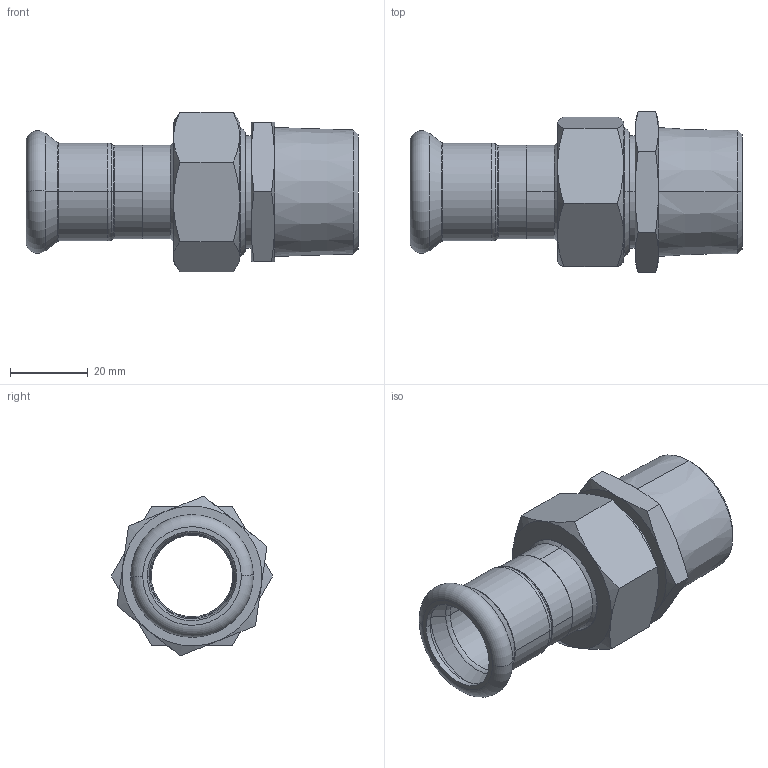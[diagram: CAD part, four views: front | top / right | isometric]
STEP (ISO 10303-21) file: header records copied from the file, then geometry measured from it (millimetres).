
FILE_DESCRIPTION (( 'STEP AP203' ), '1' );
FILE_NAME ('GDA5437.STEP', '2019-01-21T05:22:09', ( '' ), ( '' ), 'SwSTEP 2.0', 'SolidWorks 2015', '' );
FILE_SCHEMA (( 'CONFIG_CONTROL_DESIGN' ));
Length unit declared in the file: millimetre
Products named in the file (6): ZL-¢ñ-01¡Á1; 蛌遙諉芛1-1; GDA5437; 22｡ﾁ1; 1; T-ｉ-01-22
Assembly tree (5 placements, depth 2):
  GDA5437
    22｡ﾁ1
    1
    ZL-¢ñ-01¡Á1
    蛌遙諉芛1-1
    T-ｉ-01-22
Bounding box: 85.5 x 41.57 x 41.14 mm (x, y, z)
Volume: 29946.5 mm3; surface area: 22459.7 mm2
Topology: 5 solids, 5 shells, 126 faces, 260 edges, 150 vertices
Faces by surface type: cone 48, cylinder 34, plane 28, torus 16
Entity records: 4150 total; most frequent: CARTESIAN_POINT 832, DIRECTION 622, ORIENTED_EDGE 520, AXIS2_PLACEMENT_3D 276, EDGE_CURVE 260, VERTEX_POINT 150, CIRCLE 142, EDGE_LOOP 142
